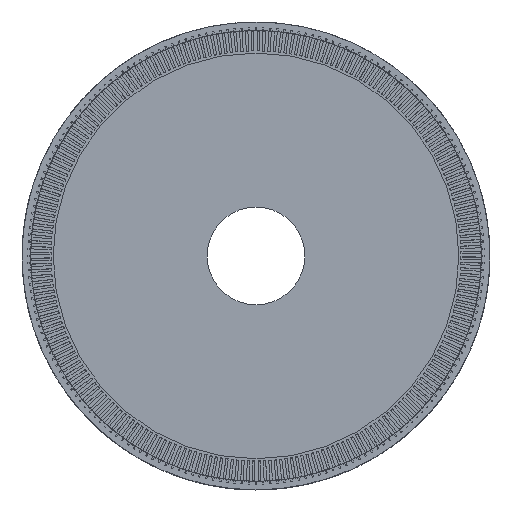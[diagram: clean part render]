
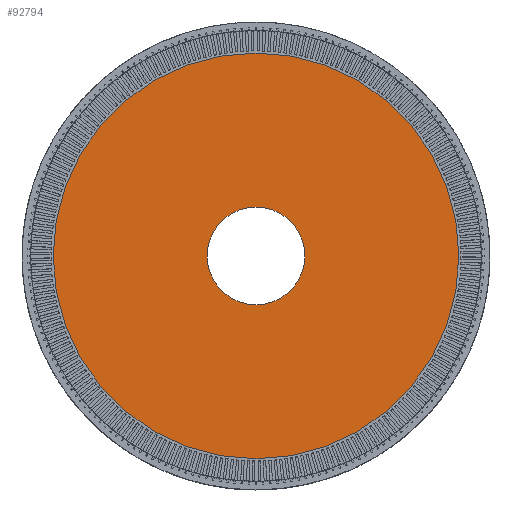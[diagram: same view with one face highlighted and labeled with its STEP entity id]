
A CAD part, top view. The second image highlights one B-rep face of the part: STEP entity #92794.
In plain terms, the highlighted planar face has unit normal (0, 0, 1).
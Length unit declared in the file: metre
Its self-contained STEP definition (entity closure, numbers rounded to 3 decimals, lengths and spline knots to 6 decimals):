
#20 = VERTEX_POINT ( 'NONE', #95606 ) ;
#2495 = ORIENTED_EDGE ( 'NONE', *, *, #14008, .F. ) ;
#5849 = CARTESIAN_POINT ( 'NONE',  ( 0., 0., 2.27447 ) ) ;
#14008 = EDGE_CURVE ( 'NONE', #63429, #54888, #65932, .T. ) ;
#15269 = DIRECTION ( 'NONE',  ( 0., 0., 1. ) ) ;
#24288 = EDGE_LOOP ( 'NONE', ( #113543, #73580 ) ) ;
#27914 = CIRCLE ( 'NONE', #49161, 4.566 ) ;
#33057 = DIRECTION ( 'NONE',  ( 1., 0., 0. ) ) ;
#34960 = CIRCLE ( 'NONE', #104428, 4.566 ) ;
#38118 = DIRECTION ( 'NONE',  ( 1., 0., 0. ) ) ;
#38302 = CARTESIAN_POINT ( 'NONE',  ( 4.566, 0., 2.27447 ) ) ;
#38836 = EDGE_CURVE ( 'NONE', #54888, #63429, #86956, .T. ) ;
#39428 = DIRECTION ( 'NONE',  ( 1., 0., 0. ) ) ;
#41258 = CARTESIAN_POINT ( 'NONE',  ( -1.1, 0., 2.27447 ) ) ;
#48490 = CARTESIAN_POINT ( 'NONE',  ( 0., 0., 2.27447 ) ) ;
#49161 = AXIS2_PLACEMENT_3D ( 'NONE', #48490, #49691, #39428 ) ;
#49275 = EDGE_CURVE ( 'NONE', #20, #70073, #34960, .T. ) ;
#49439 = DIRECTION ( 'NONE',  ( 0., 0., 1. ) ) ;
#49691 = DIRECTION ( 'NONE',  ( 0., 0., 1. ) ) ;
#52164 = FACE_BOUND ( 'NONE', #103459, .T. ) ;
#54888 = VERTEX_POINT ( 'NONE', #41258 ) ;
#56684 = CARTESIAN_POINT ( 'NONE',  ( 0., 0., 2.27447 ) ) ;
#63429 = VERTEX_POINT ( 'NONE', #68134 ) ;
#65146 = DIRECTION ( 'NONE',  ( 0., 0., 1. ) ) ;
#65932 = CIRCLE ( 'NONE', #118151, 1.1 ) ;
#68134 = CARTESIAN_POINT ( 'NONE',  ( 1.1, 0., 2.27447 ) ) ;
#68746 = DIRECTION ( 'NONE',  ( 0., 0., 1. ) ) ;
#70073 = VERTEX_POINT ( 'NONE', #38302 ) ;
#73423 = AXIS2_PLACEMENT_3D ( 'NONE', #5849, #68746, #33057 ) ;
#73580 = ORIENTED_EDGE ( 'NONE', *, *, #94326, .T. ) ;
#78782 = FACE_OUTER_BOUND ( 'NONE', #24288, .T. ) ;
#86956 = CIRCLE ( 'NONE', #73423, 1.1 ) ;
#89042 = DIRECTION ( 'NONE',  ( 1., 0., 0. ) ) ;
#92794 = ADVANCED_FACE ( 'NONE', ( #78782, #52164 ), #105992, .T. ) ;
#94326 = EDGE_CURVE ( 'NONE', #70073, #20, #27914, .T. ) ;
#95606 = CARTESIAN_POINT ( 'NONE',  ( -4.566, 0., 2.27447 ) ) ;
#101615 = CARTESIAN_POINT ( 'NONE',  ( 0., 0., 2.27447 ) ) ;
#103459 = EDGE_LOOP ( 'NONE', ( #109705, #2495 ) ) ;
#104428 = AXIS2_PLACEMENT_3D ( 'NONE', #56684, #65146, #113483 ) ;
#105992 = PLANE ( 'NONE',  #116366 ) ;
#109705 = ORIENTED_EDGE ( 'NONE', *, *, #38836, .F. ) ;
#113483 = DIRECTION ( 'NONE',  ( 1., 0., 0. ) ) ;
#113543 = ORIENTED_EDGE ( 'NONE', *, *, #49275, .T. ) ;
#116251 = CARTESIAN_POINT ( 'NONE',  ( 0., 0., 2.27447 ) ) ;
#116366 = AXIS2_PLACEMENT_3D ( 'NONE', #116251, #15269, #89042 ) ;
#118151 = AXIS2_PLACEMENT_3D ( 'NONE', #101615, #49439, #38118 ) ;
